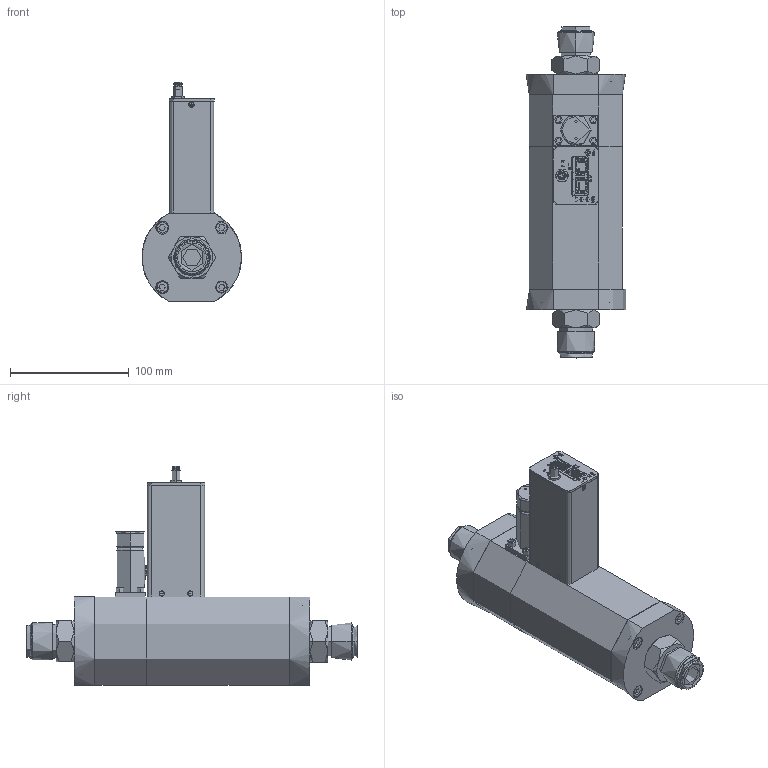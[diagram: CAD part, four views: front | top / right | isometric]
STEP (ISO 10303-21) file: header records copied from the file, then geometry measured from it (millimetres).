
FILE_DESCRIPTION (( 'STEP AP203' ), '1' );
FILE_NAME ('SLA5853-E-2T-2-A-REVB.STEP', '2017-12-13T01:33:35', ( 'mrutkowski' ), ( 'Hewlett-Packard Company' ), 'SwSTEP 2.0', 'SolidWorks 2017', '' );
FILE_SCHEMA (( 'CONFIG_CONTROL_DESIGN' ));
Length unit declared in the file: inch
Products named in the file (1): SLA5853-E-2T-2-A-REVB
Bounding box: 84.06 x 279.88 x 185.05 mm (x, y, z)
Topology: 0 solids, 82 shells, 661 faces, 2364 edges, 1772 vertices
Faces by surface type: plane 387, cylinder 174, cone 68, torus 14, bspline 10, sphere 8
Full cylindrical faces by diameter (mm): 2.978 x2
Entity records: 34009 total; most frequent: CARTESIAN_POINT 15009, ORIENTED_EDGE 3567, DIRECTION 3472, EDGE_CURVE 2355, VERTEX_POINT 1763, LINE 1314, VECTOR 1314, AXIS2_PLACEMENT_3D 1079
